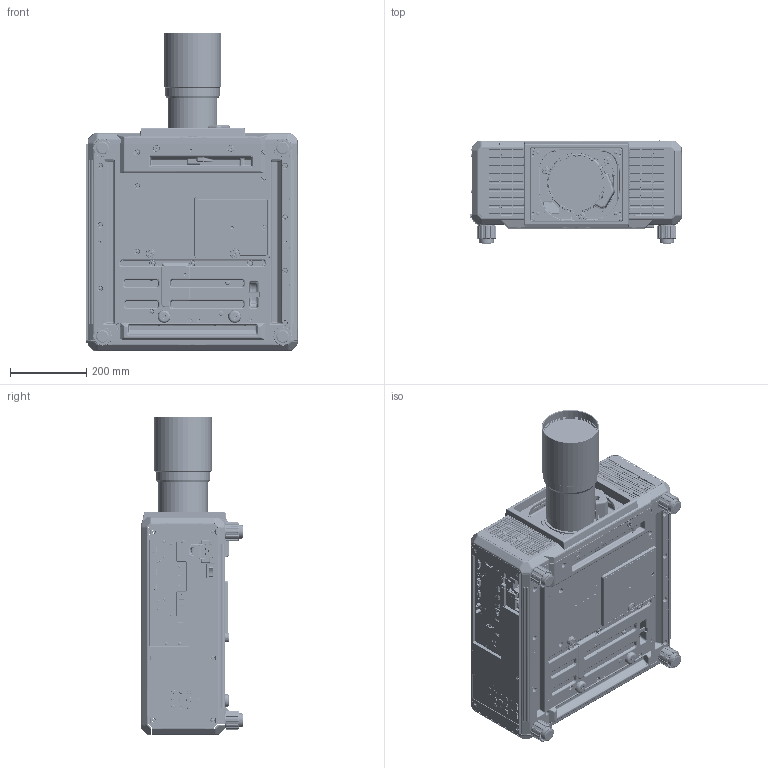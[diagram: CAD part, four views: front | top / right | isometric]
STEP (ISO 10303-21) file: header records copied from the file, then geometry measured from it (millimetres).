
FILE_DESCRIPTION(/* description */ (''),/* implementation_level */ '2;1');
FILE_NAME(/* name */ '01103228_ZA00_RQ25K_D3LET80_FACE.stp',/* time_stamp */ '2022-12-05T13:22:54+09:00',/* author */ (''),/* organization */ (''),/* preprocessor_version */ 'ST-DEVELOPER v16',/* originating_system */ 'SIEMENS PLM Software NX 10.0',/* authorisation */ '');
FILE_SCHEMA (('AUTOMOTIVE_DESIGN { 1 0 10303 214 3 1 1 1 }'));
Products named in the file (1): 01103228_ZA00
Bounding box: 556.3 x 269 x 832.65 mm (x, y, z)
Surface area: 1985097.6 mm2 (no closed solid volume)
Topology: 0 solids, 2162 shells, 10369 faces, 46356 edges, 37528 vertices
Faces by surface type: plane 5153, cylinder 4101, torus 445, bspline 384, cone 173, sphere 112, extrusion 1
Full cylindrical faces by diameter (mm): 1.02 x2, 3 x1, 3.6 x2, 5 x2, 5.5 x2, 6 x2, 7 x2, 8 x2, 9.5 x2, 14.9 x1, 23.647 x1, 37.2 x4, 40 x4, 126.6 x1, 130 x1, 137.6 x1, 138 x1, 140.4 x1, 142 x1, 143.2 x1, 146 x1, 150 x1, 154 x1
Entity records: 564467 total; most frequent: CARTESIAN_POINT 129278, DIRECTION 76601, ORIENTED_EDGE 56367, EDGE_CURVE 45869, VERTEX_POINT 37375, VECTOR 25913, LINE 25912, AXIS2_PLACEMENT_3D 25344
